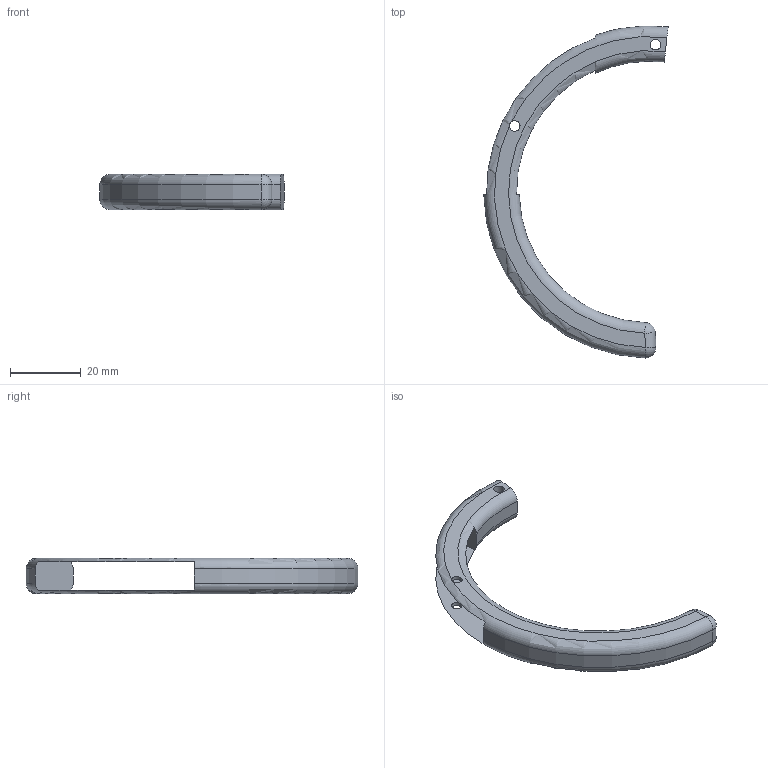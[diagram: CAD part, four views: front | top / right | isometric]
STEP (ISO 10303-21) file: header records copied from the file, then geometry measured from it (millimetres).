
FILE_DESCRIPTION (( 'STEP AP203' ), '1' );
FILE_NAME ('Part1-end effector_Default_sldprt.STEP', '2025-01-16T15:44:36', ( '' ), ( '' ), 'SwSTEP 2.0', 'SolidWorks 2020', '' );
FILE_SCHEMA (( 'CONFIG_CONTROL_DESIGN' ));
Length unit declared in the file: millimetre
Products named in the file (1): Part1-end effector_Default_sldprt
Bounding box: 52.15 x 93.95 x 10 mm (x, y, z)
Volume: 8648 mm3; surface area: 5194.4 mm2
Topology: 1 solids, 1 shells, 32 faces, 92 edges, 56 vertices
Faces by surface type: cylinder 14, plane 8, sphere 6, torus 4
Entity records: 1187 total; most frequent: CARTESIAN_POINT 257, DIRECTION 196, ORIENTED_EDGE 176, EDGE_CURVE 88, AXIS2_PLACEMENT_3D 85, VERTEX_POINT 54, CIRCLE 52, EDGE_LOOP 36
